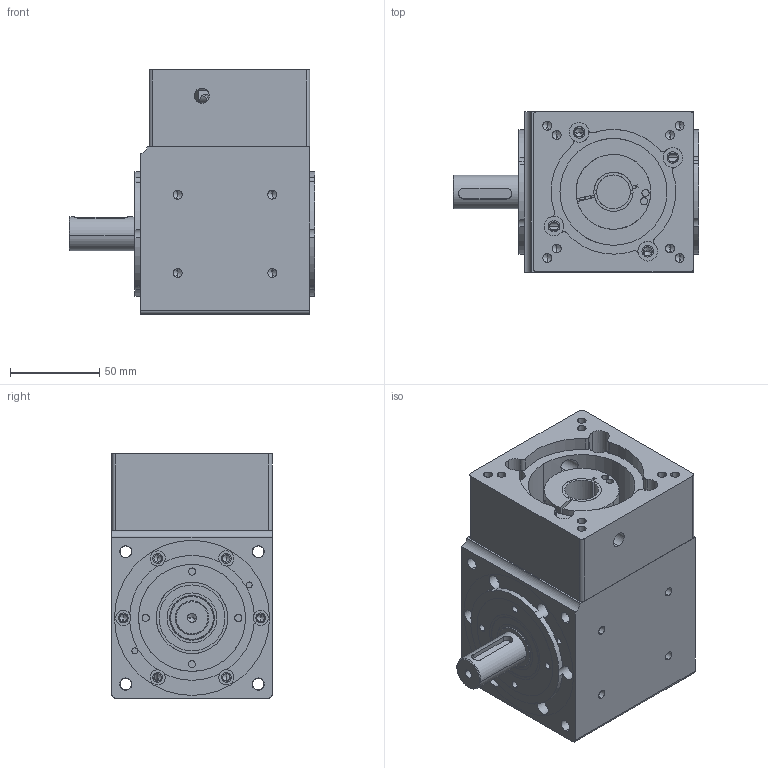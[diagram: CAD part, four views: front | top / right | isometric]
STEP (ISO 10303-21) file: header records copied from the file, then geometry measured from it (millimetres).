
FILE_DESCRIPTION (( 'STEP AP203' ), '1' );
FILE_NAME ('90单轴装配图 （750W）.STEP', '2020-07-30T06:10:52', ( 'User' ), ( 'China' ), 'SwSTEP 2.0', 'SolidWorks 2015', '' );
FILE_SCHEMA (( 'CONFIG_CONTROL_DESIGN' ));
Length unit declared in the file: millimetre
Products named in the file (11): tapered roller bearings gb_Rolling bearings 32005 GB 297-94; PVFD090綴楊擘; PVFD090標杶; PVFD090蹟譫; PVFD090怀堤粣; PVFD090输入轴; PVFDo9o眊极; 25-40-7蚐猾; PVFD090͹̨; 90单轴装配图   （750W）; deep groove ball bearings gb_Rolling bearings 6005 GB 276-94
Assembly tree (14 placements, depth 2):
  90单轴装配图   （750W）
    PVFDo9o眊极
    PVFD090͹̨  x2
    deep groove ball bearings gb_Rolling bearings 6005 GB 276-94  x2
    tapered roller bearings gb_Rolling bearings 32005 GB 297-94
    PVFD090綴楊擘
    PVFD090標杶
    PVFD090蹟譫  x2
    PVFD090怀堤粣
    PVFD090输入轴
    25-40-7蚐猾  x2
Bounding box: 138 x 90 x 137 mm (x, y, z)
Volume: 840622.1 mm3; surface area: 236130.9 mm2
Topology: 14 solids, 14 shells, 992 faces, 3371 edges, 2183 vertices
Faces by surface type: cylinder 377, torus 224, plane 167, cone 148, sphere 76
Entity records: 32870 total; most frequent: CARTESIAN_POINT 10604, ORIENTED_EDGE 4692, DIRECTION 4283, EDGE_CURVE 2346, AXIS2_PLACEMENT_3D 1895, VERTEX_POINT 1538, CIRCLE 1106, EDGE_LOOP 946
